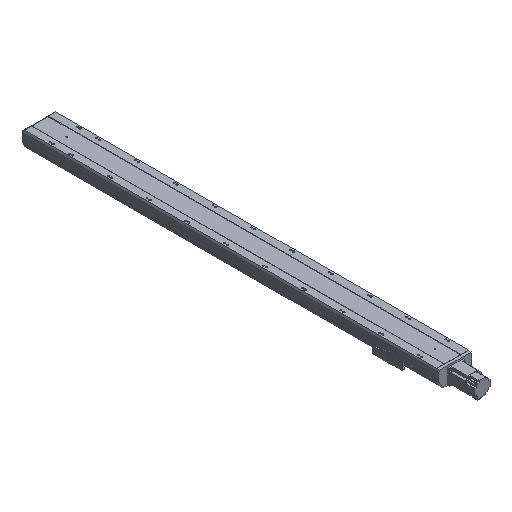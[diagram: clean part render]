
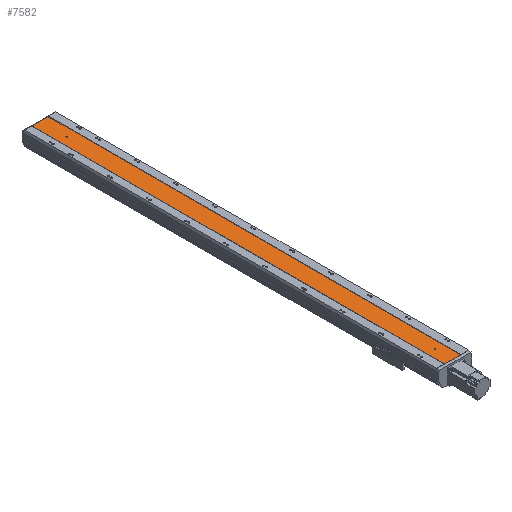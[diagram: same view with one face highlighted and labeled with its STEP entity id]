
A CAD part, isometric view. The second image highlights one B-rep face of the part: STEP entity #7582.
In plain terms, the highlighted planar face has unit normal (0, 0, 1).
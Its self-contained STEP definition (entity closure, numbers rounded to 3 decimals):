
#245 = VECTOR ( 'NONE', #26783, 1000. ) ;
#411 = AXIS2_PLACEMENT_3D ( 'NONE', #3136, #12895, #22425 ) ;
#547 = DIRECTION ( 'NONE',  ( 0., 0., -1. ) ) ;
#1792 = CARTESIAN_POINT ( 'NONE',  ( 42., 2129., 44. ) ) ;
#2812 = CARTESIAN_POINT ( 'NONE',  ( 0., 1990., 44. ) ) ;
#3046 = VERTEX_POINT ( 'NONE', #30385 ) ;
#3136 = CARTESIAN_POINT ( 'NONE',  ( 0., 1992., 44. ) ) ;
#3431 = VECTOR ( 'NONE', #25540, 1000. ) ;
#5021 = DIRECTION ( 'NONE',  ( 1., 0., 0. ) ) ;
#5658 = AXIS2_PLACEMENT_3D ( 'NONE', #26873, #14650, #12431 ) ;
#6025 = LINE ( 'NONE', #8391, #24961 ) ;
#6696 = EDGE_CURVE ( 'NONE', #28349, #25945, #14259, .T. ) ;
#6967 = CARTESIAN_POINT ( 'NONE',  ( 3., 1990., 44. ) ) ;
#7582 = ADVANCED_FACE ( 'NONE', ( #28528, #22172, #16850 ), #13041, .F. ) ;
#7678 = ORIENTED_EDGE ( 'NONE', *, *, #29678, .F. ) ;
#8256 = CARTESIAN_POINT ( 'NONE',  ( -42., 2129., 44. ) ) ;
#8391 = CARTESIAN_POINT ( 'NONE',  ( -42., 0., 44. ) ) ;
#8535 = LINE ( 'NONE', #13607, #11584 ) ;
#8690 = VECTOR ( 'NONE', #30043, 1000. ) ;
#9118 = EDGE_CURVE ( 'NONE', #19713, #11452, #9184, .T. ) ;
#9184 = CIRCLE ( 'NONE', #5658, 3. ) ;
#10942 = CARTESIAN_POINT ( 'NONE',  ( -42., 2129., 44. ) ) ;
#11415 = EDGE_CURVE ( 'NONE', #31094, #26180, #27965, .T. ) ;
#11452 = VERTEX_POINT ( 'NONE', #29631 ) ;
#11584 = VECTOR ( 'NONE', #30494, 1000. ) ;
#11940 = AXIS2_PLACEMENT_3D ( 'NONE', #2812, #15004, #5021 ) ;
#12401 = ORIENTED_EDGE ( 'NONE', *, *, #18046, .F. ) ;
#12431 = DIRECTION ( 'NONE',  ( 1., 0., 0. ) ) ;
#12828 = DIRECTION ( 'NONE',  ( 0., 0., 1. ) ) ;
#12895 = DIRECTION ( 'NONE',  ( 0., 0., 1. ) ) ;
#13041 = PLANE ( 'NONE',  #23467 ) ;
#13071 = CARTESIAN_POINT ( 'NONE',  ( -3., 1990., 44. ) ) ;
#13115 = CIRCLE ( 'NONE', #411, 3. ) ;
#13531 = VERTEX_POINT ( 'NONE', #6967 ) ;
#13607 = CARTESIAN_POINT ( 'NONE',  ( -42., 2129., 44. ) ) ;
#13880 = EDGE_CURVE ( 'NONE', #3046, #21923, #8535, .T. ) ;
#14259 = LINE ( 'NONE', #20211, #16159 ) ;
#14650 = DIRECTION ( 'NONE',  ( 0., 0., 1. ) ) ;
#14661 = VERTEX_POINT ( 'NONE', #24946 ) ;
#15004 = DIRECTION ( 'NONE',  ( 0., 0., 1. ) ) ;
#15321 = ORIENTED_EDGE ( 'NONE', *, *, #6696, .F. ) ;
#15807 = ORIENTED_EDGE ( 'NONE', *, *, #13880, .T. ) ;
#15922 = LINE ( 'NONE', #10942, #3431 ) ;
#16159 = VECTOR ( 'NONE', #25776, 1000. ) ;
#16450 = EDGE_LOOP ( 'NONE', ( #24531, #12401 ) ) ;
#16555 = EDGE_LOOP ( 'NONE', ( #23992, #15321, #17542, #15807 ) ) ;
#16560 = CIRCLE ( 'NONE', #11940, 3. ) ;
#16850 = FACE_BOUND ( 'NONE', #16450, .T. ) ;
#16870 = CARTESIAN_POINT ( 'NONE',  ( -42., 0., 44. ) ) ;
#17542 = ORIENTED_EDGE ( 'NONE', *, *, #24193, .F. ) ;
#17639 = LINE ( 'NONE', #29089, #245 ) ;
#17910 = CARTESIAN_POINT ( 'NONE',  ( 42., 0., 44. ) ) ;
#18046 = EDGE_CURVE ( 'NONE', #11452, #19713, #27921, .T. ) ;
#19713 = VERTEX_POINT ( 'NONE', #19789 ) ;
#19789 = CARTESIAN_POINT ( 'NONE',  ( 3., 91., 44. ) ) ;
#20211 = CARTESIAN_POINT ( 'NONE',  ( 42., 2129., 44. ) ) ;
#20957 = ORIENTED_EDGE ( 'NONE', *, *, #11415, .F. ) ;
#21923 = VERTEX_POINT ( 'NONE', #16870 ) ;
#22172 = FACE_OUTER_BOUND ( 'NONE', #16555, .T. ) ;
#22425 = DIRECTION ( 'NONE',  ( 1., 0., 0. ) ) ;
#22673 = ORIENTED_EDGE ( 'NONE', *, *, #27341, .F. ) ;
#22882 = DIRECTION ( 'NONE',  ( -1., 0., 0. ) ) ;
#23375 = AXIS2_PLACEMENT_3D ( 'NONE', #29900, #12828, #27577 ) ;
#23467 = AXIS2_PLACEMENT_3D ( 'NONE', #8256, #547, #22882 ) ;
#23992 = ORIENTED_EDGE ( 'NONE', *, *, #25962, .T. ) ;
#24193 = EDGE_CURVE ( 'NONE', #3046, #28349, #15922, .T. ) ;
#24531 = ORIENTED_EDGE ( 'NONE', *, *, #9118, .F. ) ;
#24946 = CARTESIAN_POINT ( 'NONE',  ( 3., 1992., 44. ) ) ;
#24961 = VECTOR ( 'NONE', #27835, 1000. ) ;
#25540 = DIRECTION ( 'NONE',  ( 1., 0., 0. ) ) ;
#25721 = CARTESIAN_POINT ( 'NONE',  ( -3., 1992., 44. ) ) ;
#25776 = DIRECTION ( 'NONE',  ( 0., -1., 0. ) ) ;
#25945 = VERTEX_POINT ( 'NONE', #17910 ) ;
#25962 = EDGE_CURVE ( 'NONE', #21923, #25945, #6025, .T. ) ;
#26180 = VERTEX_POINT ( 'NONE', #26338 ) ;
#26338 = CARTESIAN_POINT ( 'NONE',  ( -3., 1990., 44. ) ) ;
#26783 = DIRECTION ( 'NONE',  ( 0., 1., 0. ) ) ;
#26873 = CARTESIAN_POINT ( 'NONE',  ( 0., 91., 44. ) ) ;
#27341 = EDGE_CURVE ( 'NONE', #26180, #13531, #16560, .T. ) ;
#27577 = DIRECTION ( 'NONE',  ( 1., 0., 0. ) ) ;
#27835 = DIRECTION ( 'NONE',  ( 1., 0., 0. ) ) ;
#27837 = EDGE_LOOP ( 'NONE', ( #7678, #22673, #20957, #29964 ) ) ;
#27921 = CIRCLE ( 'NONE', #23375, 3. ) ;
#27965 = LINE ( 'NONE', #13071, #8690 ) ;
#28349 = VERTEX_POINT ( 'NONE', #1792 ) ;
#28528 = FACE_BOUND ( 'NONE', #27837, .T. ) ;
#29089 = CARTESIAN_POINT ( 'NONE',  ( 3., 1990., 44. ) ) ;
#29631 = CARTESIAN_POINT ( 'NONE',  ( -3., 91., 44. ) ) ;
#29678 = EDGE_CURVE ( 'NONE', #13531, #14661, #17639, .T. ) ;
#29900 = CARTESIAN_POINT ( 'NONE',  ( 0., 91., 44. ) ) ;
#29964 = ORIENTED_EDGE ( 'NONE', *, *, #30164, .F. ) ;
#30043 = DIRECTION ( 'NONE',  ( 0., -1., 0. ) ) ;
#30164 = EDGE_CURVE ( 'NONE', #14661, #31094, #13115, .T. ) ;
#30385 = CARTESIAN_POINT ( 'NONE',  ( -42., 2129., 44. ) ) ;
#30494 = DIRECTION ( 'NONE',  ( 0., -1., 0. ) ) ;
#31094 = VERTEX_POINT ( 'NONE', #25721 ) ;
